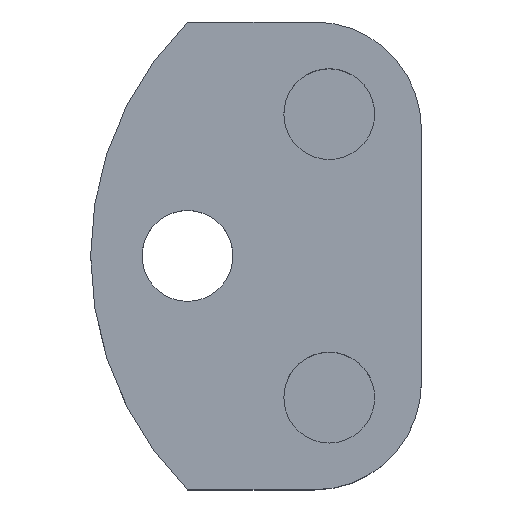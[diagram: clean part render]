
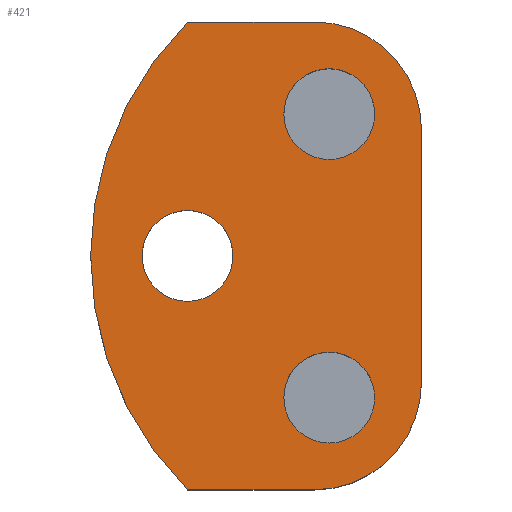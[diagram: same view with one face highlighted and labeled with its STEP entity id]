
A CAD part, top view. The second image highlights one B-rep face of the part: STEP entity #421.
In plain terms, the highlighted planar face has unit normal (0, 0, 1).
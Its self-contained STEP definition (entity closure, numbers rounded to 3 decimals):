
#3 = VERTEX_POINT ( 'NONE', #404 ) ;
#9 = DIRECTION ( 'NONE',  ( 0., 0., 1. ) ) ;
#28 = CARTESIAN_POINT ( 'NONE',  ( 9.5, 17.5, 11. ) ) ;
#30 = DIRECTION ( 'NONE',  ( 0., 0., 1. ) ) ;
#35 = CARTESIAN_POINT ( 'NONE',  ( 10.607, -10.607, 11. ) ) ;
#36 = DIRECTION ( 'NONE',  ( 1., 0., 0. ) ) ;
#38 = DIRECTION ( 'NONE',  ( 1., 0., 0. ) ) ;
#50 = DIRECTION ( 'NONE',  ( 1., 0., 0. ) ) ;
#54 = EDGE_LOOP ( 'NONE', ( #400, #345 ) ) ;
#64 = ORIENTED_EDGE ( 'NONE', *, *, #236, .T. ) ;
#70 = VERTEX_POINT ( 'NONE', #273 ) ;
#71 = AXIS2_PLACEMENT_3D ( 'NONE', #420, #87, #322 ) ;
#74 = CARTESIAN_POINT ( 'NONE',  ( 0., 0., 11. ) ) ;
#78 = DIRECTION ( 'NONE',  ( 0., 0., 1. ) ) ;
#79 = CARTESIAN_POINT ( 'NONE',  ( 17.5, 0., 11. ) ) ;
#80 = DIRECTION ( 'NONE',  ( 0., 0., 1. ) ) ;
#85 = EDGE_CURVE ( 'NONE', #443, #585, #232, .T. ) ;
#87 = DIRECTION ( 'NONE',  ( 0., 0., 1. ) ) ;
#88 = DIRECTION ( 'NONE',  ( 1., 0., 0. ) ) ;
#89 = FACE_BOUND ( 'NONE', #210, .T. ) ;
#90 = CIRCLE ( 'NONE', #620, 3.4 ) ;
#91 = EDGE_LOOP ( 'NONE', ( #579, #157, #379, #64, #426, #477 ) ) ;
#98 = CARTESIAN_POINT ( 'NONE',  ( 10.607, 10.607, 11. ) ) ;
#100 = CIRCLE ( 'NONE', #528, 3.4 ) ;
#114 = EDGE_CURVE ( 'NONE', #585, #443, #392, .T. ) ;
#116 = CARTESIAN_POINT ( 'NONE',  ( 0., 0., 11. ) ) ;
#123 = VERTEX_POINT ( 'NONE', #402 ) ;
#130 = DIRECTION ( 'NONE',  ( 0., 1., 0. ) ) ;
#142 = AXIS2_PLACEMENT_3D ( 'NONE', #211, #501, #224 ) ;
#143 = DIRECTION ( 'NONE',  ( 0., 0., 1. ) ) ;
#154 = AXIS2_PLACEMENT_3D ( 'NONE', #619, #195, #573 ) ;
#156 = DIRECTION ( 'NONE',  ( 1., 0., 0. ) ) ;
#157 = ORIENTED_EDGE ( 'NONE', *, *, #170, .T. ) ;
#170 = EDGE_CURVE ( 'NONE', #123, #3, #519, .T. ) ;
#174 = DIRECTION ( 'NONE',  ( 1., 0., 0. ) ) ;
#175 = CARTESIAN_POINT ( 'NONE',  ( 3.4, 0., 11. ) ) ;
#176 = AXIS2_PLACEMENT_3D ( 'NONE', #279, #557, #514 ) ;
#182 = CARTESIAN_POINT ( 'NONE',  ( 14.007, -10.607, 11. ) ) ;
#186 = CIRCLE ( 'NONE', #203, 3.4 ) ;
#188 = DIRECTION ( 'NONE',  ( 0., 0., 1. ) ) ;
#195 = DIRECTION ( 'NONE',  ( 0., 0., 1. ) ) ;
#203 = AXIS2_PLACEMENT_3D ( 'NONE', #35, #80, #36 ) ;
#210 = EDGE_LOOP ( 'NONE', ( #303, #576 ) ) ;
#211 = CARTESIAN_POINT ( 'NONE',  ( 0., 0., 11. ) ) ;
#215 = EDGE_CURVE ( 'NONE', #338, #70, #100, .T. ) ;
#222 = CARTESIAN_POINT ( 'NONE',  ( 0., 17.5, 11. ) ) ;
#224 = DIRECTION ( 'NONE',  ( 1., 0., 0. ) ) ;
#225 = CARTESIAN_POINT ( 'NONE',  ( 17.5, 9.5, 11. ) ) ;
#232 = CIRCLE ( 'NONE', #415, 3.4 ) ;
#236 = EDGE_CURVE ( 'NONE', #316, #435, #246, .T. ) ;
#238 = ORIENTED_EDGE ( 'NONE', *, *, #344, .F. ) ;
#240 = FACE_OUTER_BOUND ( 'NONE', #91, .T. ) ;
#246 = CIRCLE ( 'NONE', #176, 8. ) ;
#258 = AXIS2_PLACEMENT_3D ( 'NONE', #505, #78, #38 ) ;
#273 = CARTESIAN_POINT ( 'NONE',  ( 7.207, -10.607, 11. ) ) ;
#277 = VECTOR ( 'NONE', #50, 1000. ) ;
#279 = CARTESIAN_POINT ( 'NONE',  ( 9.5, -9.5, 11. ) ) ;
#294 = CIRCLE ( 'NONE', #71, 3.4 ) ;
#299 = VERTEX_POINT ( 'NONE', #467 ) ;
#303 = ORIENTED_EDGE ( 'NONE', *, *, #85, .F. ) ;
#316 = VERTEX_POINT ( 'NONE', #424 ) ;
#322 = DIRECTION ( 'NONE',  ( 1., 0., 0. ) ) ;
#324 = CIRCLE ( 'NONE', #154, 8. ) ;
#326 = EDGE_CURVE ( 'NONE', #70, #338, #186, .T. ) ;
#334 = DIRECTION ( 'NONE',  ( 1., 0., 0. ) ) ;
#338 = VERTEX_POINT ( 'NONE', #182 ) ;
#344 = EDGE_CURVE ( 'NONE', #299, #531, #294, .T. ) ;
#345 = ORIENTED_EDGE ( 'NONE', *, *, #215, .F. ) ;
#360 = PLANE ( 'NONE',  #570 ) ;
#379 = ORIENTED_EDGE ( 'NONE', *, *, #622, .T. ) ;
#381 = FACE_BOUND ( 'NONE', #588, .T. ) ;
#392 = CIRCLE ( 'NONE', #142, 3.4 ) ;
#393 = VECTOR ( 'NONE', #130, 1000. ) ;
#400 = ORIENTED_EDGE ( 'NONE', *, *, #326, .F. ) ;
#402 = CARTESIAN_POINT ( 'NONE',  ( 0., 17.5, 11. ) ) ;
#404 = CARTESIAN_POINT ( 'NONE',  ( 0., -17.5, 11. ) ) ;
#411 = EDGE_CURVE ( 'NONE', #435, #475, #517, .T. ) ;
#415 = AXIS2_PLACEMENT_3D ( 'NONE', #116, #30, #174 ) ;
#420 = CARTESIAN_POINT ( 'NONE',  ( 10.607, 10.607, 11. ) ) ;
#421 = ADVANCED_FACE ( 'NONE', ( #89, #597, #381, #240 ), #360, .T. ) ;
#424 = CARTESIAN_POINT ( 'NONE',  ( 9.5, -17.5, 11. ) ) ;
#426 = ORIENTED_EDGE ( 'NONE', *, *, #411, .T. ) ;
#433 = VECTOR ( 'NONE', #552, 1000. ) ;
#435 = VERTEX_POINT ( 'NONE', #547 ) ;
#443 = VERTEX_POINT ( 'NONE', #175 ) ;
#455 = VERTEX_POINT ( 'NONE', #28 ) ;
#456 = EDGE_CURVE ( 'NONE', #123, #455, #508, .T. ) ;
#467 = CARTESIAN_POINT ( 'NONE',  ( 14.007, 10.607, 11. ) ) ;
#475 = VERTEX_POINT ( 'NONE', #225 ) ;
#477 = ORIENTED_EDGE ( 'NONE', *, *, #581, .T. ) ;
#478 = CARTESIAN_POINT ( 'NONE',  ( 0., -17.5, 11. ) ) ;
#501 = DIRECTION ( 'NONE',  ( 0., 0., 1. ) ) ;
#505 = CARTESIAN_POINT ( 'NONE',  ( 17.5, 0., 11. ) ) ;
#508 = LINE ( 'NONE', #222, #433 ) ;
#514 = DIRECTION ( 'NONE',  ( 1., 0., 0. ) ) ;
#517 = LINE ( 'NONE', #79, #393 ) ;
#519 = CIRCLE ( 'NONE', #258, 24.749 ) ;
#524 = CARTESIAN_POINT ( 'NONE',  ( -3.4, 0., 11. ) ) ;
#528 = AXIS2_PLACEMENT_3D ( 'NONE', #609, #188, #88 ) ;
#530 = CARTESIAN_POINT ( 'NONE',  ( 7.207, 10.607, 11. ) ) ;
#531 = VERTEX_POINT ( 'NONE', #530 ) ;
#535 = LINE ( 'NONE', #478, #277 ) ;
#547 = CARTESIAN_POINT ( 'NONE',  ( 17.5, -9.5, 11. ) ) ;
#548 = ORIENTED_EDGE ( 'NONE', *, *, #564, .F. ) ;
#552 = DIRECTION ( 'NONE',  ( 1., 0., 0. ) ) ;
#557 = DIRECTION ( 'NONE',  ( 0., 0., 1. ) ) ;
#564 = EDGE_CURVE ( 'NONE', #531, #299, #90, .T. ) ;
#570 = AXIS2_PLACEMENT_3D ( 'NONE', #74, #143, #334 ) ;
#573 = DIRECTION ( 'NONE',  ( 1., 0., 0. ) ) ;
#576 = ORIENTED_EDGE ( 'NONE', *, *, #114, .F. ) ;
#579 = ORIENTED_EDGE ( 'NONE', *, *, #456, .F. ) ;
#581 = EDGE_CURVE ( 'NONE', #475, #455, #324, .T. ) ;
#585 = VERTEX_POINT ( 'NONE', #524 ) ;
#588 = EDGE_LOOP ( 'NONE', ( #548, #238 ) ) ;
#597 = FACE_BOUND ( 'NONE', #54, .T. ) ;
#609 = CARTESIAN_POINT ( 'NONE',  ( 10.607, -10.607, 11. ) ) ;
#619 = CARTESIAN_POINT ( 'NONE',  ( 9.5, 9.5, 11. ) ) ;
#620 = AXIS2_PLACEMENT_3D ( 'NONE', #98, #9, #156 ) ;
#622 = EDGE_CURVE ( 'NONE', #3, #316, #535, .T. ) ;
